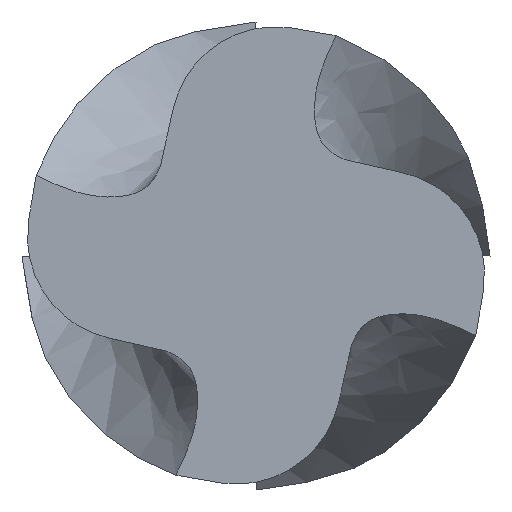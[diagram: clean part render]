
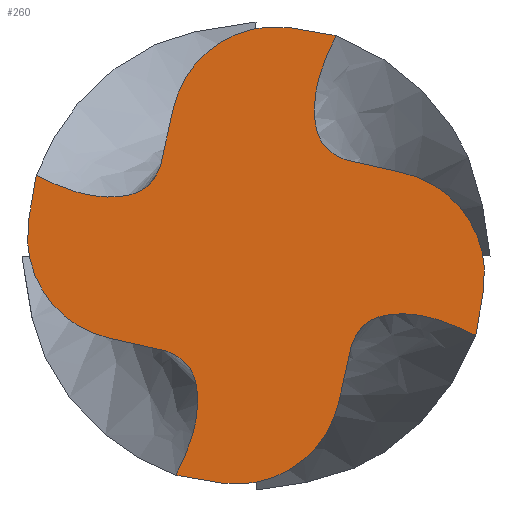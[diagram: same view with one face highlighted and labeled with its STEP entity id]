
A CAD part, top view. The second image highlights one B-rep face of the part: STEP entity #260.
In plain terms, the highlighted planar face has unit normal (0, 0, 1).
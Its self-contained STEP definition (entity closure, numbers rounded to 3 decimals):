
#2 = VERTEX_POINT ( 'NONE', #154 ) ;
#4 = EDGE_CURVE ( 'NONE', #192, #2, #59, .T. ) ;
#50 = CARTESIAN_POINT ( 'NONE',  ( -6.133, -17.307, 28. ) ) ;
#51 = CARTESIAN_POINT ( 'NONE',  ( -4.792, -14.508, 28. ) ) ;
#52 = CARTESIAN_POINT ( 'NONE',  ( -5.069, -7.201, 28. ) ) ;
#53 = CARTESIAN_POINT ( 'NONE',  ( -14.67, -8.181, 28. ) ) ;
#54 = CARTESIAN_POINT ( 'NONE',  ( -20.424, -0.802, 28. ) ) ;
#55 = CARTESIAN_POINT ( 'NONE',  ( -19.312, 4.381, 28. ) ) ;
#56 = CARTESIAN_POINT ( 'NONE',  ( -18.784, 6.841, 28. ) ) ;
#59 = B_SPLINE_CURVE_WITH_KNOTS ( 'NONE', 3,
 ( #56, #55, #54, #53, #52, #51, #50, #129 ),
 .UNSPECIFIED., .F., .F.,
 ( 4, 1, 1, 1, 1, 4 ),
 ( 0., 0.007, 0.015, 0.025, 0.029, 0.034 ),
 .UNSPECIFIED. ) ;
#91 = EDGE_CURVE ( 'NONE', #2, #250, #524, .T. ) ;
#129 = CARTESIAN_POINT ( 'NONE',  ( -6.841, -18.784, 28. ) ) ;
#154 = CARTESIAN_POINT ( 'NONE',  ( -6.841, -18.784, 28. ) ) ;
#190 = EDGE_LOOP ( 'NONE', ( #261, #262, #280, #281 ) ) ;
#191 = VERTEX_POINT ( 'NONE', #449 ) ;
#192 = VERTEX_POINT ( 'NONE', #323 ) ;
#249 = EDGE_CURVE ( 'NONE', #250, #191, #753, .T. ) ;
#250 = VERTEX_POINT ( 'NONE', #754 ) ;
#260 = ADVANCED_FACE ( 'NONE', ( #685 ), #684, .F. ) ;
#261 = ORIENTED_EDGE ( 'NONE', *, *, #272, .T. ) ;
#262 = ORIENTED_EDGE ( 'NONE', *, *, #4, .T. ) ;
#272 = EDGE_CURVE ( 'NONE', #191, #192, #744, .T. ) ;
#280 = ORIENTED_EDGE ( 'NONE', *, *, #91, .T. ) ;
#281 = ORIENTED_EDGE ( 'NONE', *, *, #249, .T. ) ;
#323 = CARTESIAN_POINT ( 'NONE',  ( -18.784, 6.841, 28. ) ) ;
#364 = CARTESIAN_POINT ( 'NONE',  ( -4.381, -19.312, 28. ) ) ;
#365 = CARTESIAN_POINT ( 'NONE',  ( -6.841, -18.784, 28. ) ) ;
#449 = CARTESIAN_POINT ( 'NONE',  ( 6.841, 18.784, 28. ) ) ;
#468 = CARTESIAN_POINT ( 'NONE',  ( 18.784, -6.841, 28. ) ) ;
#469 = CARTESIAN_POINT ( 'NONE',  ( 17.307, -6.133, 28. ) ) ;
#470 = CARTESIAN_POINT ( 'NONE',  ( 14.508, -4.792, 28. ) ) ;
#471 = CARTESIAN_POINT ( 'NONE',  ( 7.201, -5.069, 28. ) ) ;
#472 = CARTESIAN_POINT ( 'NONE',  ( 8.181, -14.67, 28. ) ) ;
#473 = CARTESIAN_POINT ( 'NONE',  ( 0.802, -20.424, 28. ) ) ;
#524 = B_SPLINE_CURVE_WITH_KNOTS ( 'NONE', 3,
 ( #365, #364, #473, #472, #471, #470, #469, #468 ),
 .UNSPECIFIED., .F., .F.,
 ( 4, 1, 1, 1, 1, 4 ),
 ( 0., 0.007, 0.015, 0.025, 0.029, 0.034 ),
 .UNSPECIFIED. ) ;
#680 = DIRECTION ( 'NONE',  ( -1., 0., 0. ) ) ;
#681 = DIRECTION ( 'NONE',  ( 0., 0., -1. ) ) ;
#682 = CARTESIAN_POINT ( 'NONE',  ( -25., -25., 28. ) ) ;
#683 = AXIS2_PLACEMENT_3D ( 'NONE', #682, #681, #680 ) ;
#684 = PLANE ( 'NONE',  #683 ) ;
#685 = FACE_OUTER_BOUND ( 'NONE', #190, .T. ) ;
#697 = CARTESIAN_POINT ( 'NONE',  ( 6.841, 18.784, 28. ) ) ;
#698 = CARTESIAN_POINT ( 'NONE',  ( 6.133, 17.307, 28. ) ) ;
#699 = CARTESIAN_POINT ( 'NONE',  ( 4.792, 14.508, 28. ) ) ;
#700 = CARTESIAN_POINT ( 'NONE',  ( 5.069, 7.201, 28. ) ) ;
#701 = CARTESIAN_POINT ( 'NONE',  ( 14.67, 8.181, 28. ) ) ;
#705 = CARTESIAN_POINT ( 'NONE',  ( -18.784, 6.841, 28. ) ) ;
#706 = CARTESIAN_POINT ( 'NONE',  ( -17.307, 6.133, 28. ) ) ;
#707 = CARTESIAN_POINT ( 'NONE',  ( -14.508, 4.792, 28. ) ) ;
#708 = CARTESIAN_POINT ( 'NONE',  ( -7.201, 5.069, 28. ) ) ;
#709 = CARTESIAN_POINT ( 'NONE',  ( -8.181, 14.67, 28. ) ) ;
#710 = CARTESIAN_POINT ( 'NONE',  ( -0.802, 20.424, 28. ) ) ;
#742 = CARTESIAN_POINT ( 'NONE',  ( 4.381, 19.312, 28. ) ) ;
#743 = CARTESIAN_POINT ( 'NONE',  ( 6.841, 18.784, 28. ) ) ;
#744 = B_SPLINE_CURVE_WITH_KNOTS ( 'NONE', 3,
 ( #743, #742, #710, #709, #708, #707, #706, #705 ),
 .UNSPECIFIED., .F., .F.,
 ( 4, 1, 1, 1, 1, 4 ),
 ( 0., 0.007, 0.015, 0.025, 0.029, 0.034 ),
 .UNSPECIFIED. ) ;
#750 = CARTESIAN_POINT ( 'NONE',  ( 20.424, 0.802, 28. ) ) ;
#751 = CARTESIAN_POINT ( 'NONE',  ( 19.312, -4.381, 28. ) ) ;
#752 = CARTESIAN_POINT ( 'NONE',  ( 18.784, -6.841, 28. ) ) ;
#753 = B_SPLINE_CURVE_WITH_KNOTS ( 'NONE', 3,
 ( #752, #751, #750, #701, #700, #699, #698, #697 ),
 .UNSPECIFIED., .F., .F.,
 ( 4, 1, 1, 1, 1, 4 ),
 ( 0., 0.007, 0.015, 0.025, 0.029, 0.034 ),
 .UNSPECIFIED. ) ;
#754 = CARTESIAN_POINT ( 'NONE',  ( 18.784, -6.841, 28. ) ) ;
